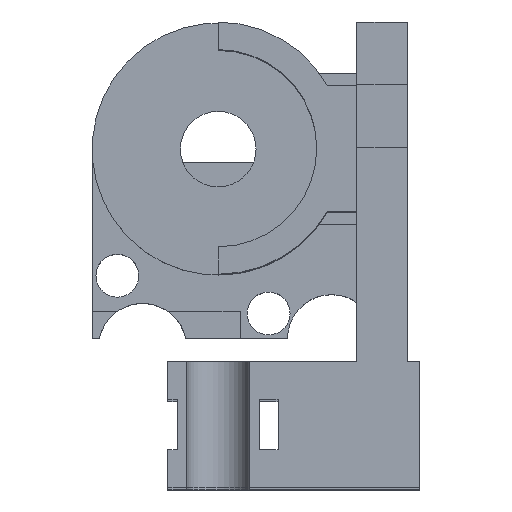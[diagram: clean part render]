
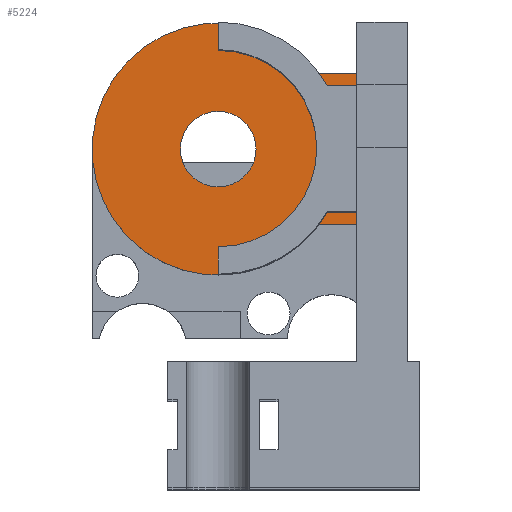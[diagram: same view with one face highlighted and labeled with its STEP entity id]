
A CAD part, top view. The second image highlights one B-rep face of the part: STEP entity #5224.
In plain terms, the highlighted planar face has unit normal (0, 0, 1).
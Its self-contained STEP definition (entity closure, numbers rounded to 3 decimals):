
#237 = PLANE('',#238);
#238 = AXIS2_PLACEMENT_3D('',#239,#240,#241);
#239 = CARTESIAN_POINT('',(-6.,-30.,112.63));
#240 = DIRECTION('',(1.,0.,0.));
#241 = DIRECTION('',(0.,0.,1.));
#1989 = VERTEX_POINT('',#1990);
#1990 = CARTESIAN_POINT('',(-6.,-11.,40.));
#2004 = PLANE('',#2005);
#2005 = AXIS2_PLACEMENT_3D('',#2006,#2007,#2008);
#2006 = CARTESIAN_POINT('',(-9.5,-11.,37.));
#2007 = DIRECTION('',(0.,1.,0.));
#2008 = DIRECTION('',(0.,0.,1.));
#2015 = EDGE_CURVE('',#2016,#1989,#2018,.T.);
#2016 = VERTEX_POINT('',#2017);
#2017 = CARTESIAN_POINT('',(-6.,1.,40.));
#2018 = SURFACE_CURVE('',#2019,(#2023,#2030),.PCURVE_S1.);
#2019 = LINE('',#2020,#2021);
#2020 = CARTESIAN_POINT('',(-6.,-13.,40.));
#2021 = VECTOR('',#2022,1.);
#2022 = DIRECTION('',(0.,-1.,0.));
#2023 = PCURVE('',#237,#2024);
#2024 = DEFINITIONAL_REPRESENTATION('',(#2025),#2029);
#2025 = LINE('',#2026,#2027);
#2026 = CARTESIAN_POINT('',(-72.63,-17.));
#2027 = VECTOR('',#2028,1.);
#2028 = DIRECTION('',(0.,1.));
#2029 = ( GEOMETRIC_REPRESENTATION_CONTEXT(2) 
PARAMETRIC_REPRESENTATION_CONTEXT() REPRESENTATION_CONTEXT('2D SPACE',''
  ) );
#2030 = PCURVE('',#2031,#2036);
#2031 = PLANE('',#2032);
#2032 = AXIS2_PLACEMENT_3D('',#2033,#2034,#2035);
#2033 = CARTESIAN_POINT('',(-9.5,-11.,40.));
#2034 = DIRECTION('',(0.,0.,1.));
#2035 = DIRECTION('',(1.,0.,0.));
#2036 = DEFINITIONAL_REPRESENTATION('',(#2037),#2041);
#2037 = LINE('',#2038,#2039);
#2038 = CARTESIAN_POINT('',(3.5,-2.));
#2039 = VECTOR('',#2040,1.);
#2040 = DIRECTION('',(0.,-1.));
#2041 = ( GEOMETRIC_REPRESENTATION_CONTEXT(2) 
PARAMETRIC_REPRESENTATION_CONTEXT() REPRESENTATION_CONTEXT('2D SPACE',''
  ) );
#2057 = PLANE('',#2058);
#2058 = AXIS2_PLACEMENT_3D('',#2059,#2060,#2061);
#2059 = CARTESIAN_POINT('',(-9.5,1.,37.));
#2060 = DIRECTION('',(0.,1.,0.));
#2061 = DIRECTION('',(0.,0.,1.));
#5109 = CYLINDRICAL_SURFACE('',#5110,10.);
#5110 = AXIS2_PLACEMENT_3D('',#5111,#5112,#5113);
#5111 = CARTESIAN_POINT('',(-17.,-5.,37.));
#5112 = DIRECTION('',(-0.,-0.,-1.));
#5113 = DIRECTION('',(1.,0.,0.));
#5166 = CYLINDRICAL_SURFACE('',#5167,3.);
#5167 = AXIS2_PLACEMENT_3D('',#5168,#5169,#5170);
#5168 = CARTESIAN_POINT('',(-17.,-5.,36.5));
#5169 = DIRECTION('',(-0.,-0.,-1.));
#5170 = DIRECTION('',(1.,0.,0.));
#5183 = VERTEX_POINT('',#5184);
#5184 = CARTESIAN_POINT('',(-9.,-11.,40.));
#5203 = EDGE_CURVE('',#5183,#1989,#5204,.T.);
#5204 = SURFACE_CURVE('',#5205,(#5209,#5216),.PCURVE_S1.);
#5205 = LINE('',#5206,#5207);
#5206 = CARTESIAN_POINT('',(-9.5,-11.,40.));
#5207 = VECTOR('',#5208,1.);
#5208 = DIRECTION('',(1.,0.,0.));
#5209 = PCURVE('',#2004,#5210);
#5210 = DEFINITIONAL_REPRESENTATION('',(#5211),#5215);
#5211 = LINE('',#5212,#5213);
#5212 = CARTESIAN_POINT('',(3.,0.));
#5213 = VECTOR('',#5214,1.);
#5214 = DIRECTION('',(0.,1.));
#5215 = ( GEOMETRIC_REPRESENTATION_CONTEXT(2) 
PARAMETRIC_REPRESENTATION_CONTEXT() REPRESENTATION_CONTEXT('2D SPACE',''
  ) );
#5216 = PCURVE('',#2031,#5217);
#5217 = DEFINITIONAL_REPRESENTATION('',(#5218),#5222);
#5218 = LINE('',#5219,#5220);
#5219 = CARTESIAN_POINT('',(0.,0.));
#5220 = VECTOR('',#5221,1.);
#5221 = DIRECTION('',(1.,0.));
#5222 = ( GEOMETRIC_REPRESENTATION_CONTEXT(2) 
PARAMETRIC_REPRESENTATION_CONTEXT() REPRESENTATION_CONTEXT('2D SPACE',''
  ) );
#5224 = ADVANCED_FACE('',(#5225,#5274),#2031,.T.);
#5225 = FACE_BOUND('',#5226,.T.);
#5226 = EDGE_LOOP('',(#5227,#5250,#5272,#5273));
#5227 = ORIENTED_EDGE('',*,*,#5228,.F.);
#5228 = EDGE_CURVE('',#5229,#2016,#5231,.T.);
#5229 = VERTEX_POINT('',#5230);
#5230 = CARTESIAN_POINT('',(-9.,1.,40.));
#5231 = SURFACE_CURVE('',#5232,(#5236,#5243),.PCURVE_S1.);
#5232 = LINE('',#5233,#5234);
#5233 = CARTESIAN_POINT('',(-9.5,1.,40.));
#5234 = VECTOR('',#5235,1.);
#5235 = DIRECTION('',(1.,0.,0.));
#5236 = PCURVE('',#2031,#5237);
#5237 = DEFINITIONAL_REPRESENTATION('',(#5238),#5242);
#5238 = LINE('',#5239,#5240);
#5239 = CARTESIAN_POINT('',(0.,12.));
#5240 = VECTOR('',#5241,1.);
#5241 = DIRECTION('',(1.,0.));
#5242 = ( GEOMETRIC_REPRESENTATION_CONTEXT(2) 
PARAMETRIC_REPRESENTATION_CONTEXT() REPRESENTATION_CONTEXT('2D SPACE',''
  ) );
#5243 = PCURVE('',#2057,#5244);
#5244 = DEFINITIONAL_REPRESENTATION('',(#5245),#5249);
#5245 = LINE('',#5246,#5247);
#5246 = CARTESIAN_POINT('',(3.,0.));
#5247 = VECTOR('',#5248,1.);
#5248 = DIRECTION('',(0.,1.));
#5249 = ( GEOMETRIC_REPRESENTATION_CONTEXT(2) 
PARAMETRIC_REPRESENTATION_CONTEXT() REPRESENTATION_CONTEXT('2D SPACE',''
  ) );
#5250 = ORIENTED_EDGE('',*,*,#5251,.T.);
#5251 = EDGE_CURVE('',#5229,#5183,#5252,.T.);
#5252 = SURFACE_CURVE('',#5253,(#5258,#5265),.PCURVE_S1.);
#5253 = CIRCLE('',#5254,10.);
#5254 = AXIS2_PLACEMENT_3D('',#5255,#5256,#5257);
#5255 = CARTESIAN_POINT('',(-17.,-5.,40.));
#5256 = DIRECTION('',(0.,0.,1.));
#5257 = DIRECTION('',(1.,0.,0.));
#5258 = PCURVE('',#2031,#5259);
#5259 = DEFINITIONAL_REPRESENTATION('',(#5260),#5264);
#5260 = CIRCLE('',#5261,10.);
#5261 = AXIS2_PLACEMENT_2D('',#5262,#5263);
#5262 = CARTESIAN_POINT('',(-7.5,6.));
#5263 = DIRECTION('',(1.,0.));
#5264 = ( GEOMETRIC_REPRESENTATION_CONTEXT(2) 
PARAMETRIC_REPRESENTATION_CONTEXT() REPRESENTATION_CONTEXT('2D SPACE',''
  ) );
#5265 = PCURVE('',#5109,#5266);
#5266 = DEFINITIONAL_REPRESENTATION('',(#5267),#5271);
#5267 = LINE('',#5268,#5269);
#5268 = CARTESIAN_POINT('',(-0.,-3.));
#5269 = VECTOR('',#5270,1.);
#5270 = DIRECTION('',(-1.,0.));
#5271 = ( GEOMETRIC_REPRESENTATION_CONTEXT(2) 
PARAMETRIC_REPRESENTATION_CONTEXT() REPRESENTATION_CONTEXT('2D SPACE',''
  ) );
#5272 = ORIENTED_EDGE('',*,*,#5203,.T.);
#5273 = ORIENTED_EDGE('',*,*,#2015,.F.);
#5274 = FACE_BOUND('',#5275,.T.);
#5275 = EDGE_LOOP('',(#5276));
#5276 = ORIENTED_EDGE('',*,*,#5277,.T.);
#5277 = EDGE_CURVE('',#5278,#5278,#5280,.T.);
#5278 = VERTEX_POINT('',#5279);
#5279 = CARTESIAN_POINT('',(-14.,-5.,40.));
#5280 = SURFACE_CURVE('',#5281,(#5286,#5297),.PCURVE_S1.);
#5281 = CIRCLE('',#5282,3.);
#5282 = AXIS2_PLACEMENT_3D('',#5283,#5284,#5285);
#5283 = CARTESIAN_POINT('',(-17.,-5.,40.));
#5284 = DIRECTION('',(0.,0.,-1.));
#5285 = DIRECTION('',(1.,0.,0.));
#5286 = PCURVE('',#2031,#5287);
#5287 = DEFINITIONAL_REPRESENTATION('',(#5288),#5296);
#5288 = ( BOUNDED_CURVE() B_SPLINE_CURVE(2,(#5289,#5290,#5291,#5292,
#5293,#5294,#5295),.UNSPECIFIED.,.T.,.F.) B_SPLINE_CURVE_WITH_KNOTS((1,2
    ,2,2,2,1),(-2.094,0.,2.094,4.189,
6.283,8.378),.UNSPECIFIED.) CURVE() 
GEOMETRIC_REPRESENTATION_ITEM() RATIONAL_B_SPLINE_CURVE((1.,0.5,1.,0.5,
1.,0.5,1.)) REPRESENTATION_ITEM('') );
#5289 = CARTESIAN_POINT('',(-4.5,6.));
#5290 = CARTESIAN_POINT('',(-4.5,0.804));
#5291 = CARTESIAN_POINT('',(-9.,3.402));
#5292 = CARTESIAN_POINT('',(-13.5,6.));
#5293 = CARTESIAN_POINT('',(-9.,8.598));
#5294 = CARTESIAN_POINT('',(-4.5,11.196));
#5295 = CARTESIAN_POINT('',(-4.5,6.));
#5296 = ( GEOMETRIC_REPRESENTATION_CONTEXT(2) 
PARAMETRIC_REPRESENTATION_CONTEXT() REPRESENTATION_CONTEXT('2D SPACE',''
  ) );
#5297 = PCURVE('',#5166,#5298);
#5298 = DEFINITIONAL_REPRESENTATION('',(#5299),#5303);
#5299 = LINE('',#5300,#5301);
#5300 = CARTESIAN_POINT('',(-6.283,-3.5));
#5301 = VECTOR('',#5302,1.);
#5302 = DIRECTION('',(1.,-0.));
#5303 = ( GEOMETRIC_REPRESENTATION_CONTEXT(2) 
PARAMETRIC_REPRESENTATION_CONTEXT() REPRESENTATION_CONTEXT('2D SPACE',''
  ) );
